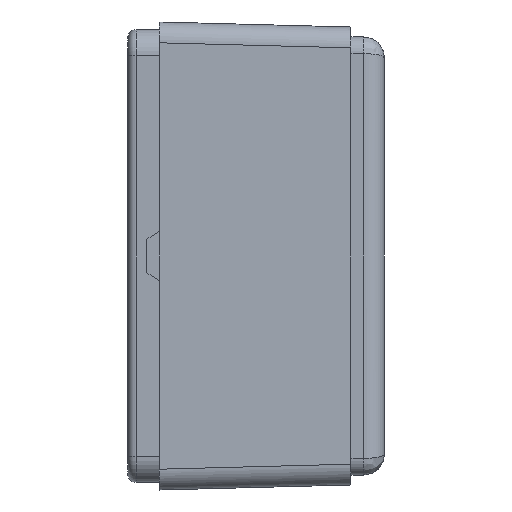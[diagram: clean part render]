
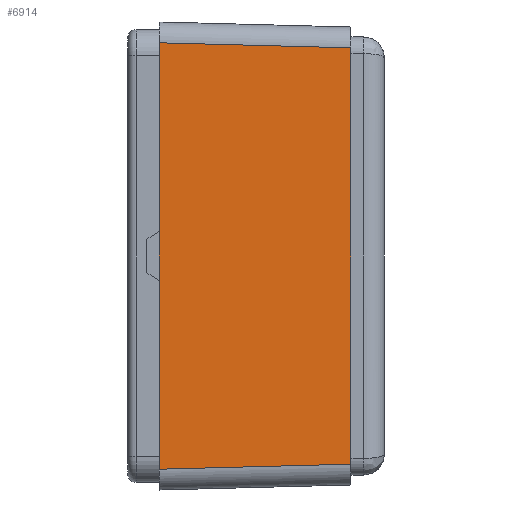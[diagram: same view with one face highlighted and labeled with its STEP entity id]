
A CAD part, left-side view. The second image highlights one B-rep face of the part: STEP entity #6914.
In plain terms, the highlighted planar face has unit normal (-1, -0.026, 0).
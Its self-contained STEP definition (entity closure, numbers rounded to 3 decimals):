
#434 = ORIENTED_EDGE ( 'NONE', *, *, #6377, .F. ) ;
#488 = DIRECTION ( 'NONE',  ( 0., 0., 1. ) ) ;
#744 = CARTESIAN_POINT ( 'NONE',  ( -59.698, -23., 24.999 ) ) ;
#801 = LINE ( 'NONE', #8585, #9320 ) ;
#1483 = DIRECTION ( 'NONE',  ( 0.026, -0.999, 0.026 ) ) ;
#1932 = AXIS2_PLACEMENT_3D ( 'NONE', #4543, #11925, #5606 ) ;
#2886 = EDGE_CURVE ( 'NONE', #12854, #4540, #10765, .T. ) ;
#2937 = CARTESIAN_POINT ( 'NONE',  ( -59.698, -23., -28.1 ) ) ;
#3340 = DIRECTION ( 'NONE',  ( -0.026, 0.999, 0.026 ) ) ;
#4540 = VERTEX_POINT ( 'NONE', #12716 ) ;
#4543 = CARTESIAN_POINT ( 'NONE',  ( -60.3, 0., -28.1 ) ) ;
#4939 = VERTEX_POINT ( 'NONE', #7856 ) ;
#5007 = DIRECTION ( 'NONE',  ( 0., 0., -1. ) ) ;
#5156 = VECTOR ( 'NONE', #1483, 1000. ) ;
#5606 = DIRECTION ( 'NONE',  ( 0.026, -1., 0. ) ) ;
#5725 = EDGE_CURVE ( 'NONE', #12854, #4939, #7401, .T. ) ;
#5961 = ORIENTED_EDGE ( 'NONE', *, *, #8061, .T. ) ;
#6377 = EDGE_CURVE ( 'NONE', #13206, #4540, #10030, .T. ) ;
#6914 = ADVANCED_FACE ( 'NONE', ( #11813 ), #8735, .T. ) ;
#7401 = LINE ( 'NONE', #8625, #9876 ) ;
#7681 = CARTESIAN_POINT ( 'NONE',  ( -60.3, 0., -25.601 ) ) ;
#7856 = CARTESIAN_POINT ( 'NONE',  ( -60.3, 0., 25.601 ) ) ;
#8061 = EDGE_CURVE ( 'NONE', #13206, #4939, #801, .T. ) ;
#8585 = CARTESIAN_POINT ( 'NONE',  ( -60.263, -1.404, 25.564 ) ) ;
#8625 = CARTESIAN_POINT ( 'NONE',  ( -60.3, 0., -28.1 ) ) ;
#8735 = PLANE ( 'NONE',  #1932 ) ;
#9103 = ORIENTED_EDGE ( 'NONE', *, *, #2886, .T. ) ;
#9320 = VECTOR ( 'NONE', #3340, 1000. ) ;
#9689 = VECTOR ( 'NONE', #5007, 1000. ) ;
#9876 = VECTOR ( 'NONE', #488, 1000. ) ;
#10030 = LINE ( 'NONE', #2937, #9689 ) ;
#10765 = LINE ( 'NONE', #12204, #5156 ) ;
#11813 = FACE_OUTER_BOUND ( 'NONE', #13021, .T. ) ;
#11925 = DIRECTION ( 'NONE',  ( -1., -0.026, 0. ) ) ;
#12204 = CARTESIAN_POINT ( 'NONE',  ( -60.302, 0.065, -25.603 ) ) ;
#12716 = CARTESIAN_POINT ( 'NONE',  ( -59.698, -23., -24.999 ) ) ;
#12792 = ORIENTED_EDGE ( 'NONE', *, *, #5725, .F. ) ;
#12854 = VERTEX_POINT ( 'NONE', #7681 ) ;
#13021 = EDGE_LOOP ( 'NONE', ( #12792, #9103, #434, #5961 ) ) ;
#13206 = VERTEX_POINT ( 'NONE', #744 ) ;
